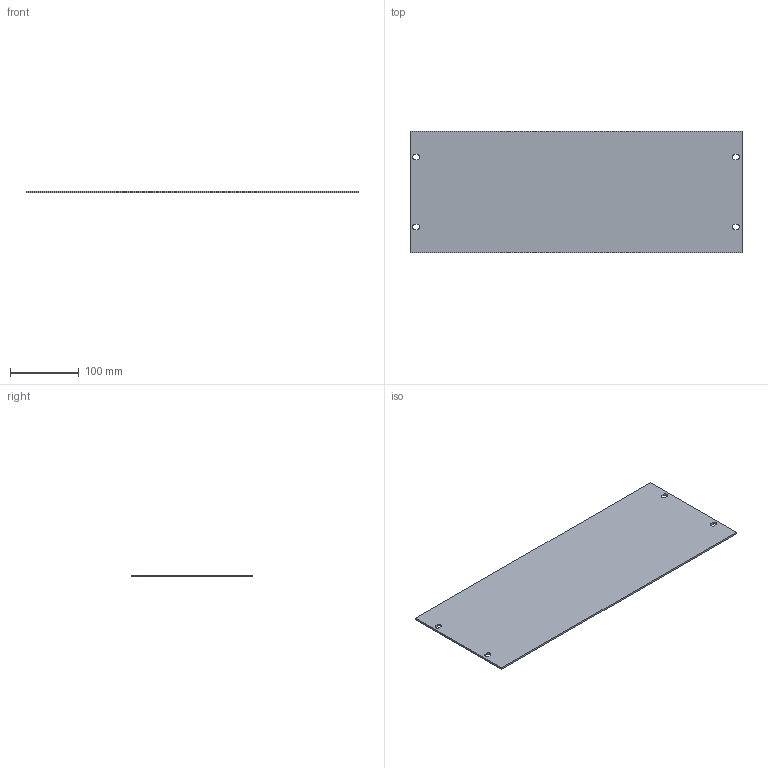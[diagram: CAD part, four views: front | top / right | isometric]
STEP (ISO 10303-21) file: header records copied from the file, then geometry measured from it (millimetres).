
FILE_DESCRIPTION((''),'2;1');
FILE_NAME('D:\a00506\p-19rpp4ub.stp','2004-07-22T08:52:03',( 'Rick Hagglund'),('Hoffman Enclosures Inc.'),'I-DEAS Master Series 9', 'UNIX','Yes');
FILE_SCHEMA(('AUTOMOTIVE_DESIGN { 1 0 10303 214 0 1 1 1 }'));
Length unit declared in the file: inch
Products named in the file (1): p19rpp4ub
Bounding box: 482.59 x 177 x 2.67 mm (x, y, z)
Volume: 227109 mm3; surface area: 174143.3 mm2
Topology: 1 solids, 1 shells, 22 faces, 60 edges, 40 vertices
Faces by surface type: bspline 22
Entity records: 803 total; most frequent: CARTESIAN_POINT 344, ORIENTED_EDGE 120, EDGE_CURVE 60, VERTEX_POINT 40, OVER_RIDING_STYLED_ITEM 34, EDGE_LOOP 30, STYLED_ITEM 29, B_SPLINE_CURVE_WITH_KNOTS 24
